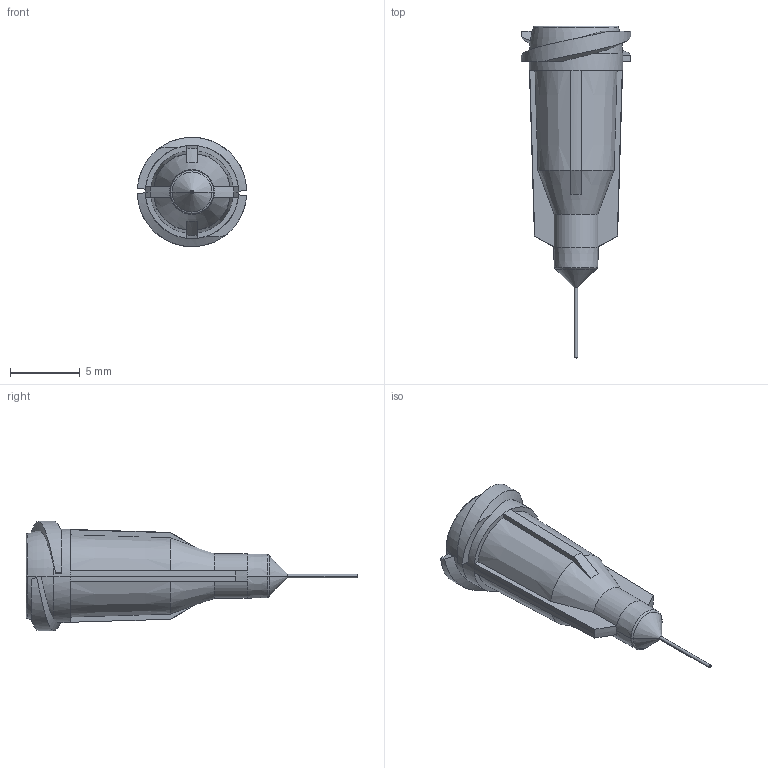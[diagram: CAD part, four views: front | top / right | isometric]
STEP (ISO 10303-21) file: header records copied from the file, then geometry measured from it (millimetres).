
FILE_DESCRIPTION (( 'STEP AP214' ), '1' );
FILE_NAME ('NORDSONEFD-7018461 TIP 32GA GP 004 X 25 YW.STEP', '2019-01-16T15:12:28', ( '' ), ( '' ), 'SwSTEP 2.0', 'SolidWorks 2018', '' );
FILE_SCHEMA (( 'AUTOMOTIVE_DESIGN' ));
Length unit declared in the file: inch
Products named in the file (1): NORDSONEFD-7018461 TIP 32GA GP 004 X 25 YW
Bounding box: 7.82 x 23.72 x 7.82 mm (x, y, z)
Volume: 265.7 mm3; surface area: 531.6 mm2
Topology: 1 solids, 1 shells, 94 faces, 220 edges, 130 vertices
Faces by surface type: cone 24, plane 24, torus 22, bspline 12, cylinder 12
Entity records: 3236 total; most frequent: CARTESIAN_POINT 979, ORIENTED_EDGE 440, DIRECTION 438, EDGE_CURVE 220, AXIS2_PLACEMENT_3D 191, VERTEX_POINT 130, CIRCLE 108, EDGE_LOOP 98
